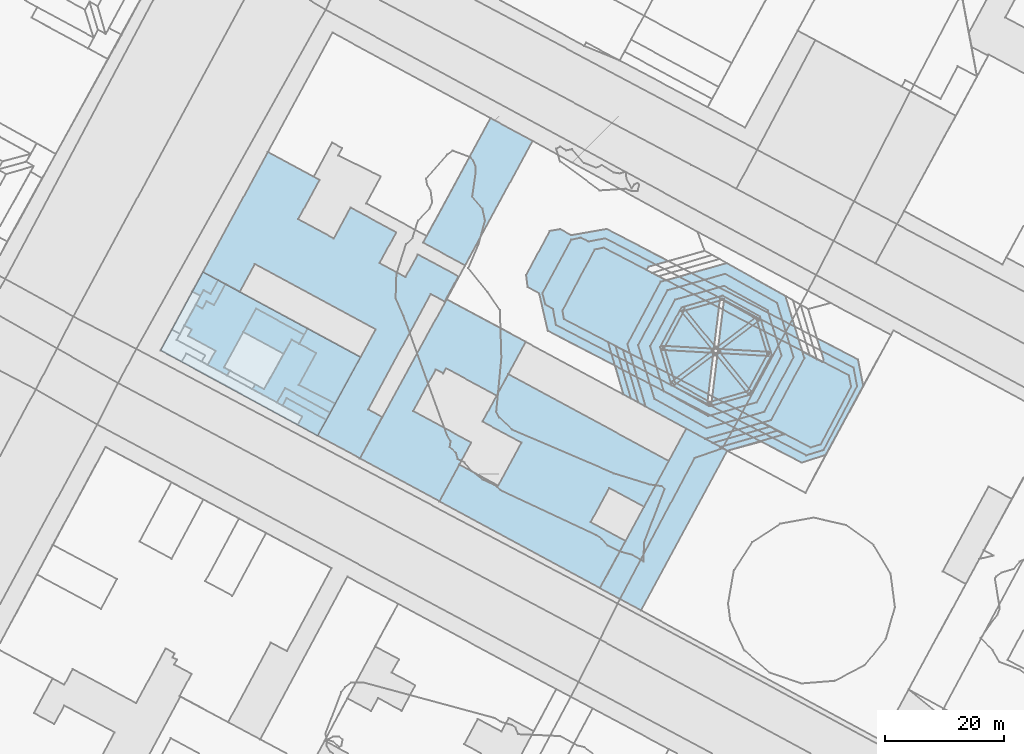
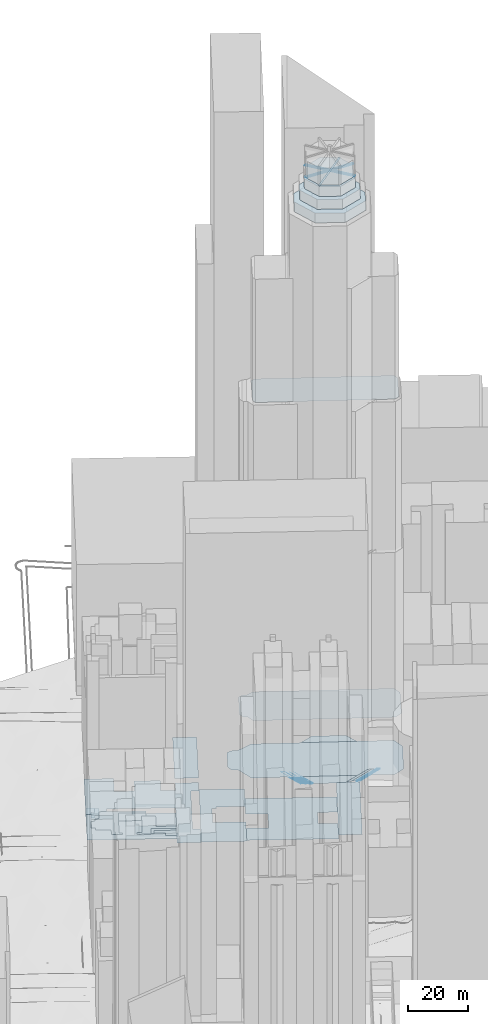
# Not in any storey, part 7 of 76: 31 footings.
"""IFC2X3 model written with IfcOpenShell, lengths in metres."""

from ifc_helpers import new_model, si_unit, frame, origin_with_axes, place, context, subcontext, project, faceted_brep, element, save


model = new_model("IFC2X3")

# Units and contexts
model_context = context("Model", 3, precision=1e-05, world=origin_with_axes())
body_context = subcontext(model_context, "Body", "Model", "MODEL_VIEW")
ifc_project = project(units=[si_unit("AREAUNIT", "SQUARE_METRE"), si_unit("LENGTHUNIT", "METRE")], contexts=[model_context])

# Footings
footing_1_placement = place(None, frame((159.9721915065, 264.969762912, 19.7613864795), z_axis=(0.0, 0.0, 1.0), x_axis=(1.0, 0.0, 0.0)))
element("IfcFooting", 1, at=footing_1_placement, Name="Sol 0", PredefinedType="STRIP_FOOTING", context=body_context, shape_type="Brep", body=[
    faceted_brep([(26.8862979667, -14.5533802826, 0.0), (0.0, 0.0, 0.0), (3.3387795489, 6.1561492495, 0.0), (25.3312162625, -3.502510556, 0.0), (31.1586807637, -6.6544117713, 0.0), (38.4143590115, 6.7526611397, 0.0), (34.2660149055, -0.9228247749, 0.0), (28.4385534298, 2.2290739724, 0.0), (7.2227399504, 13.3400447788, 0.0), (11.5365531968, 21.3060973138, 0.0), (9.8628457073, 2.6237495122, 0.0), (13.7552421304, 9.807746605, 0.0)], [[[0, 1, 2]], [[3, 4, 0]], [[5, 6, 7]], [[8, 9, 5]], [[0, 2, 10]], [[8, 5, 7]], [[0, 10, 11]], [[11, 8, 7]], [[3, 0, 11]], [[11, 7, 3]]]),
])
footing_2_placement = place(None, frame((133.701994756, 280.9958944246, 22.2284312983), z_axis=(0.0, 0.0, 1.0), x_axis=(1.0, 0.0, 0.0)))
element("IfcFooting", 2, at=footing_2_placement, Name="Sol 0", PredefinedType="STRIP_FOOTING", context=body_context, shape_type="Brep", body=[
    faceted_brep([(3.3046733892, -1.8045757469, 0.0), (0.0, 0.0, 0.0), (0.686095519, 1.2514244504, 0.0), (5.8745466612, -5.0276748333, 0.0), (2.5274119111, -3.2013890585, 0.0), (7.3210219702, -2.3796322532, 0.0)], [[[0, 1, 2]], [[3, 4, 0]], [[0, 2, 5]], [[5, 3, 0]]]),
])
footing_3_placement = place(None, frame((132.7675039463, 281.5068423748, 22.0591971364), z_axis=(0.0, 0.0, 1.0), x_axis=(1.0, 0.0, 0.0)))
element("IfcFooting", 3, at=footing_3_placement, Name="Sol 0", PredefinedType="STRIP_FOOTING", context=body_context, shape_type="Brep", body=[
    faceted_brep([(0.9344908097, -0.5109479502, 0.0), (0.0, 0.0, 0.0), (1.3392038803, 2.43585198, 0.0), (8.9001799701, -1.7062499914, 0.0), (8.2555127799, -2.8905802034, 0.0), (1.6205863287, 0.7404765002, 0.0)], [[[0, 1, 2]], [[3, 4, 5]], [[5, 0, 2]], [[2, 3, 5]]]),
])
footing_4_placement = place(None, frame((136.4219742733, 284.4691979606, 20.8510870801), z_axis=(0.0, 0.0, 1.0), x_axis=(1.0, 0.0, 0.0)))
element("IfcFooting", 4, at=footing_4_placement, Name="Sol 0", PredefinedType="STRIP_FOOTING", context=body_context, shape_type="Brep", body=[
    faceted_brep([(6.088815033, -3.1266972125, 0.0), (0.0, 0.0, 0.0), (2.9178819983, 5.3296808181, 0.0), (1.4688163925, 9.4428815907, 0.0), (10.3290123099, 4.6386442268, 0.0), (0.063512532, 6.8841359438, 0.0)], [[[0, 1, 2]], [[3, 4, 0]], [[2, 5, 3]], [[3, 0, 2]]]),
])
footing_5_placement = place(None, frame((128.6389686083, 283.7459380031, 21.7688219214), z_axis=(0.0, 0.0, 1.0), x_axis=(1.0, 0.0, 0.0)))
element("IfcFooting", 5, at=footing_5_placement, Name="Sol 0", PredefinedType="STRIP_FOOTING", context=body_context, shape_type="Brep", body=[
    faceted_brep([(4.128535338, -2.2390956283, 0.0), (0.0, 0.0, 0.0), (0.4547989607, 0.8157486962, 0.0), (13.8718206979, -2.403437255, 0.0), (13.0287153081, -3.9453456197, 0.0), (5.4677392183, 0.1967563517, 0.0), (6.5976755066, 8.2923269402, 0.0), (10.7008876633, 6.0529407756, 0.0), (7.7830056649, 0.7232599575, 0.0), (1.9668380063, 0.0006475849, 0.0)], [[[0, 1, 2]], [[3, 4, 5]], [[6, 7, 8]], [[0, 2, 9]], [[8, 3, 5]], [[9, 6, 8]], [[5, 0, 9]], [[9, 8, 5]]]),
])
footing_6_placement = place(None, frame((127.1263243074, 293.3318134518, 21.914507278), z_axis=(0.0, 0.0, 1.0), x_axis=(1.0, 0.0, 0.0)))
element("IfcFooting", 6, at=footing_6_placement, Name="Sol 0", PredefinedType="STRIP_FOOTING", context=body_context, shape_type="Brep", body=[
    faceted_brep([(6.7281427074, -3.6632865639, 0.0), (0.0, 0.0, 0.0), (2.1408822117, 3.9106630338, 0.0), (10.1940852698, -0.4588713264, 0.0), (9.3591624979, -1.9784795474, 0.0), (8.1103198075, -1.2935485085, 0.0)], [[[0, 1, 2]], [[3, 4, 5]], [[5, 0, 2]], [[2, 3, 5]]]),
])
footing_7_placement = place(None, frame((113.2505831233, 290.2618220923, 20.8510870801), z_axis=(0.0, 0.0, 1.0), x_axis=(1.0, 0.0, 0.0)))
element("IfcFooting", 7, at=footing_7_placement, Name="Sol 0", PredefinedType="STRIP_FOOTING", context=body_context, shape_type="Brep", body=[
    faceted_brep([(26.3259582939, -14.293602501, 0.0), (0.0, 0.0, 0.0), (7.1070834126, 13.1277116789, 0.0), (33.5004034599, -1.1539799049, 0.0)], [[[0, 1, 2]], [[2, 3, 0]]]),
])
footing_8_placement = place(None, frame((117.2543175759, 294.4050643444, 21.8182038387), z_axis=(0.0, 0.0, 1.0), x_axis=(1.0, 0.0, 0.0)))
element("IfcFooting", 8, at=footing_8_placement, Name="Sol 0", PredefinedType="STRIP_FOOTING", context=body_context, shape_type="Brep", body=[
    faceted_brep([(1.2063814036, -0.6632227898, 0.0), (0.0, 0.0, 0.0), (1.8928382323, 3.4636882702, 0.0), (5.206899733, -4.2360816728, 0.0), (0.6111927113, -1.7470558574, 0.0), (7.1880803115, -8.3764098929, 0.0), (3.9175610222, -6.6047386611, 0.0), (6.6234717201, -7.0062899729, 0.0), (7.6344393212, -7.5607595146, 0.0), (20.6364730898, -0.4929847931, 0.0), (20.0660920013, -1.532122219, 0.0), (12.0128889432, 2.8374121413, 0.0), (3.0481909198, 2.8331797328, 0.0), (3.7259757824, 4.073404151, 0.0), (4.9492373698, 3.4103780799, 0.0), (6.8834997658, 6.9411625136, 0.0)], [[[0, 1, 2]], [[3, 4, 0]], [[5, 6, 3]], [[7, 8, 5]], [[9, 10, 11]], [[12, 13, 14]], [[0, 2, 12]], [[7, 5, 3]], [[15, 9, 11]], [[0, 12, 14]], [[11, 7, 3]], [[14, 15, 11]], [[3, 0, 14]], [[14, 11, 3]]]),
])
footing_9_placement = place(None, frame((120.3576665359, 303.3895337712, 19.1918452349), z_axis=(0.0, 0.0, 1.0), x_axis=(1.0, 0.0, 0.0)))
element("IfcFooting", 9, at=footing_9_placement, Name="Sol 0", PredefinedType="STRIP_FOOTING", context=body_context, shape_type="Brep", body=[
    faceted_brep([(6.1586360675, -3.3257392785, 0.0), (0.0, 0.0, 0.0), (10.8837545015, 20.0994069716, 0.0), (26.294638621, -31.2137773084, 0.0), (19.2188748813, -27.4213141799, 0.0), (28.9305528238, -9.6114631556, 0.0), (27.6853086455, -23.0374588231, 0.0), (30.029914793, -24.3091752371, 0.0), (42.7894344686, -0.7351197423, 0.0), (40.5002598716, -4.9583798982, 0.0), (38.1557868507, -3.6977675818, 0.0), (33.927701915, -0.8825259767, 0.0), (36.0020774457, 2.9385544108, 0.0), (24.7261469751, 10.7789291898, 0.0), (32.3883820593, 6.6380157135, 0.0), (29.5868752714, 1.4651129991, 0.0), (19.5314868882, 15.4148184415, 0.0), (15.9697266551, 8.8342025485, 0.0), (8.6958773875, 1.3444821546, 0.0), (21.9330768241, 5.6061274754, 0.0)], [[[0, 1, 2]], [[3, 4, 5]], [[6, 7, 3]], [[8, 9, 10]], [[11, 12, 8]], [[13, 14, 15]], [[2, 16, 17]], [[18, 0, 2]], [[6, 3, 5]], [[11, 8, 10]], [[19, 13, 15]], [[18, 2, 17]], [[10, 6, 5]], [[15, 11, 10]], [[18, 17, 19]], [[10, 5, 18]], [[19, 15, 10]], [[10, 18, 19]]]),
])
footing_10_placement = place(None, frame((146.6523051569, 272.1757564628, 19.3891240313), z_axis=(0.0, 0.0, 1.0), x_axis=(1.0, 0.0, 0.0)))
element("IfcFooting", 10, at=footing_10_placement, Name="Sol 0", PredefinedType="STRIP_FOOTING", context=body_context, shape_type="Brep", body=[
    faceted_brep([(18.6586321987, 2.6371463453, 0.0), (13.3198863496, -7.2059935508, 0.0), (0.0, 0.0, 0.0), (14.4368310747, 15.0781131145, 0.0), (13.982422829, 14.2290601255, 0.0), (12.7252657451, 14.9027882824, 0.0), (27.7984552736, 19.5299999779, 0.0), (22.9062179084, 10.4914052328, 0.0), (8.931952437, 7.9086886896, 0.0), (14.5389731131, 26.6256464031, 0.0)], [[[0, 1, 2]], [[3, 4, 5]], [[6, 7, 3]], [[8, 0, 2]], [[6, 3, 5]], [[8, 2, 9]], [[9, 6, 5]], [[5, 8, 9]]]),
])
footing_11_placement = place(None, frame((190.7505875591, 290.2965312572, 21.0925550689), z_axis=(0.0, 0.0, 1.0), x_axis=(1.0, 0.0, 0.0)))
element("IfcFooting", 11, at=footing_11_placement, Name="Sol 0", PredefinedType="STRIP_FOOTING", context=body_context, shape_type="Brep", body=[
    faceted_brep([(2.5927444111, -8.8183526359, 0.0), (0.0, 0.0, 0.0), (1.2400209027, -0.6517176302, 0.0), (3.7905656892, -9.4705605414, 0.0)], [[[0, 1, 2]], [[2, 3, 0]]]),
])
footing_12_placement = place(None, frame((189.5021266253, 290.948150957, 21.1265616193), z_axis=(0.0, 0.0, 1.0), x_axis=(1.0, 0.0, 0.0)))
element("IfcFooting", 12, at=footing_12_placement, Name="Sol 0", PredefinedType="STRIP_FOOTING", context=body_context, shape_type="Brep", body=[
    faceted_brep([(2.5839152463, -8.7851489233, 0.0), (0.0, 0.0, 0.0), (1.2484609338, -0.6516196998, 0.0), (3.8412053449, -9.4699723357, 0.0)], [[[0, 1, 2]], [[2, 3, 0]]]),
])
footing_13_placement = place(None, frame((188.2449675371, 291.6218742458, 21.1651408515), z_axis=(0.0, 0.0, 1.0), x_axis=(1.0, 0.0, 0.0)))
element("IfcFooting", 13, at=footing_13_placement, Name="Sol 0", PredefinedType="STRIP_FOOTING", context=body_context, shape_type="Brep", body=[
    faceted_brep([(2.5839135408, -8.7851493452, 0.0), (0.0, 0.0, 0.0), (1.2571590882, -0.6737232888, 0.0), (3.8410743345, -9.4588722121, 0.0)], [[[0, 1, 2]], [[2, 3, 0]]]),
])
footing_14_placement = place(None, frame((204.4971683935, 275.4350208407, 21.6849039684), z_axis=(0.0, 0.0, 1.0), x_axis=(1.0, 0.0, 0.0)))
element("IfcFooting", 14, at=footing_14_placement, Name="Sol 0", PredefinedType="STRIP_FOOTING", context=body_context, shape_type="Brep", body=[
    faceted_brep([(1.2741729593, -0.6846250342, 0.0), (0.0, 0.0, 0.0), (9.490542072, 2.6971955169, 0.0), (10.7814669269, 2.0238691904, 0.0)], [[[0, 1, 2]], [[2, 3, 0]]]),
])
footing_15_placement = place(None, frame((205.7713413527, 274.7503958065, 21.7965636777), z_axis=(0.0, 0.0, 1.0), x_axis=(1.0, 0.0, 0.0)))
element("IfcFooting", 15, at=footing_15_placement, Name="Sol 0", PredefinedType="STRIP_FOOTING", context=body_context, shape_type="Brep", body=[
    faceted_brep([(1.2572926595, -0.6848211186, 0.0), (0.0, 0.0, 0.0), (9.5072939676, 2.7084942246, 0.0), (10.7897787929, 2.0350699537, 0.0)], [[[0, 1, 2]], [[2, 3, 0]]]),
])
footing_16_placement = place(None, frame((207.0286340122, 274.0655746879, 21.8143831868), z_axis=(0.0, 0.0, 1.0), x_axis=(1.0, 0.0, 0.0)))
element("IfcFooting", 16, at=footing_16_placement, Name="Sol 0", PredefinedType="STRIP_FOOTING", context=body_context, shape_type="Brep", body=[
    faceted_brep([(1.1722447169, -0.630298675, 0.0), (0.0, 0.0, 0.0), (9.5324861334, 2.7198910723, 0.0), (10.6620135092, 2.1335061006, 0.0)], [[[0, 1, 2]], [[2, 3, 0]]]),
])
footing_17_placement = place(None, frame((193.2816809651, 291.1364254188, 247.2874462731), z_axis=(0.0, 0.0, 1.0), x_axis=(1.0, 0.0, 0.0)))
element("IfcFooting", 17, at=footing_17_placement, Name="Sol 0", PredefinedType="STRIP_FOOTING", context=body_context, shape_type="Brep", body=[
    faceted_brep([(2.7471243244, -9.0274996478, 0.0), (0.0, 0.0, 0.0), (4.9071471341, 9.2053187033, 0.0), (21.1319324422, -11.1562809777, 0.0), (11.4476540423, -13.8890368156, 0.0), (23.2920400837, 7.0654426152, 0.0), (26.0391907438, -1.9620488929, 0.0), (14.5913971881, 11.9380665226, 0.0)], [[[0, 1, 2]], [[3, 4, 0]], [[5, 6, 3]], [[2, 7, 5]], [[3, 0, 2]], [[2, 5, 3]]]),
])
footing_18_placement = place(None, frame((200.4835497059, 296.8268073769, 260.0739856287), z_axis=(0.0, 0.0, 1.0), x_axis=(1.0, 0.0, 0.0)))
element("IfcFooting", 18, at=footing_18_placement, Name="Sol 0", PredefinedType="STRIP_FOOTING", context=body_context, shape_type="Brep", body=[
    faceted_brep([(11.1849786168, -13.8032627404, 0.0), (0.0, 0.0, 0.0), (0.5434525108, 0.450409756, 0.0), (11.7370008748, -13.3638547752, 0.0)], [[[0, 1, 2]], [[2, 3, 0]]]),
])
footing_19_placement = place(None, frame((198.9155746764, 285.0290795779, 259.6639688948), z_axis=(0.0, 0.0, 1.0), x_axis=(1.0, 0.0, 0.0)))
element("IfcFooting", 19, at=footing_19_placement, Name="Sol 0", PredefinedType="STRIP_FOOTING", context=body_context, shape_type="Brep", body=[
    faceted_brep([(0.4284669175, -0.5501306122, 0.0), (0.0, 0.0, 0.0), (14.1487960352, 10.8004996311, 0.0), (14.5773925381, 10.2392690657, 0.0)], [[[0, 1, 2]], [[2, 3, 0]]]),
])
footing_20_placement = place(None, frame((197.6677213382, 290.7100275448, 259.7077898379), z_axis=(0.0, 0.0, 1.0), x_axis=(1.0, 0.0, 0.0)))
element("IfcFooting", 20, at=footing_20_placement, Name="Sol 0", PredefinedType="STRIP_FOOTING", context=body_context, shape_type="Brep", body=[
    faceted_brep([(1.7900951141, -5.8522788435, 0.0), (0.0, 0.0, 0.0), (3.3045880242, 6.1890768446, 0.0), (13.9625274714, -7.2983490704, 0.0), (7.5763793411, -9.0934656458, 0.0), (15.47687195, 4.7541101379, 0.0), (17.2671074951, -1.1092659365, 0.0), (9.6905946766, 7.9952907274, 0.0)], [[[0, 1, 2]], [[3, 4, 0]], [[5, 6, 3]], [[2, 7, 5]], [[3, 0, 2]], [[2, 5, 3]]]),
])
footing_21_placement = place(None, frame((197.3599497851, 290.3178698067, 260.1111568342), z_axis=(0.0, 0.0, 1.0), x_axis=(1.0, 0.0, 0.0)))
element("IfcFooting", 21, at=footing_21_placement, Name="Sol 0", PredefinedType="STRIP_FOOTING", context=body_context, shape_type="Brep", body=[
    faceted_brep([(17.7976823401, -1.0031756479, 0.0), (0.0, 0.0, 0.0), (0.0425095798, 0.6999365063, 0.0), (17.8317499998, -0.3033371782, 0.0)], [[[0, 1, 2]], [[2, 3, 0]]]),
])
footing_22_placement = place(None, frame((196.9493964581, 290.7793907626, 255.631798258), z_axis=(0.0, 0.0, 1.0), x_axis=(1.0, 0.0, 0.0)))
element("IfcFooting", 22, at=footing_22_placement, Name="Sol 0", PredefinedType="STRIP_FOOTING", context=body_context, shape_type="Brep", body=[
    faceted_brep([(1.9480859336, -6.3722479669, 0.0), (0.0, 0.0, 0.0), (3.5688676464, 6.6917512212, 0.0), (15.134770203, -7.9286484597, 0.0), (8.2102521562, -9.8854576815, 0.0), (16.7555291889, 5.1353539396, 0.0), (18.7037575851, -1.2479906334, 0.0), (10.4935002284, 8.6374556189, 0.0)], [[[0, 1, 2]], [[3, 4, 0]], [[5, 6, 3]], [[2, 7, 5]], [[3, 0, 2]], [[2, 5, 3]]]),
])
footing_23_placement = place(None, frame((195.292913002, 290.9488680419, 251.4761187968), z_axis=(0.0, 0.0, 1.0), x_axis=(1.0, 0.0, 0.0)))
element("IfcFooting", 23, at=footing_23_placement, Name="Sol 0", PredefinedType="STRIP_FOOTING", context=body_context, shape_type="Brep", body=[
    faceted_brep([(2.308204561, -7.5782069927, 0.0), (0.0, 0.0, 0.0), (4.1720986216, 7.8089905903, 0.0), (17.8446396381, -9.3959413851, 0.0), (9.6747051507, -11.6891998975, 0.0), (19.7083730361, 6.0023613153, 0.0), (22.0165962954, -1.5758398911, 0.0), (12.3418838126, 10.1133441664, 0.0)], [[[0, 1, 2]], [[3, 4, 0]], [[5, 6, 3]], [[2, 7, 5]], [[3, 0, 2]], [[2, 5, 3]]]),
])
footing_24_placement = place(None, frame((191.4815843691, 291.3153359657, 21.0925550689), z_axis=(0.0, 0.0, 1.0), x_axis=(1.0, 0.0, 0.0)))
element("IfcFooting", 24, at=footing_24_placement, Name="Sol 0", PredefinedType="STRIP_FOOTING", context=body_context, shape_type="Brep", body=[
    faceted_brep([(3.0595688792, -10.4893652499, 0.0), (0.0, 0.0, 0.0), (5.568169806, 10.4342520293, 0.0), (24.0711095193, -12.7430327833, 0.0), (13.0155840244, -15.880315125, 0.0), (26.4887462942, 8.0130012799, 0.0), (29.6392561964, -2.3087624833, 0.0), (16.6070361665, 13.549126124, 0.0)], [[[0, 1, 2]], [[3, 4, 0]], [[5, 6, 3]], [[2, 7, 5]], [[3, 0, 2]], [[2, 5, 3]]]),
])
footing_25_placement = place(None, frame((174.515196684, 302.8642732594, 21.3701181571), z_axis=(0.0, 0.0, 1.0), x_axis=(1.0, 0.0, 0.0)))
element("IfcFooting", 25, at=footing_25_placement, Name="Sol 0", PredefinedType="STRIP_FOOTING", context=body_context, shape_type="Brep", body=[
    faceted_brep([(0.2596837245, -2.0064896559, 0.0), (0.0, 0.0, 0.0), (3.9490017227, 7.3956015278, 0.0), (46.1429906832, -31.4157509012, 0.0), (3.6457642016, -9.3612290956, 0.0), (2.2055322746, -3.1051971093, 0.0), (56.4684852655, -18.4947444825, 0.0), (50.1375301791, -30.1147343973, 0.0), (13.4416773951, 7.7280088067, 0.0), (55.6076025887, -14.152673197, 0.0), (5.6591417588, 7.693039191, 0.0), (7.5533148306, 6.6825504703, 0.0)], [[[0, 1, 2]], [[3, 4, 5]], [[6, 7, 3]], [[8, 9, 6]], [[2, 10, 11]], [[5, 0, 2]], [[6, 3, 5]], [[11, 8, 6]], [[5, 2, 11]], [[11, 6, 5]]]),
])
footing_26_placement = place(None, frame((177.2431205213, 299.8428648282, 43.5388270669), z_axis=(0.0, 0.0, 1.0), x_axis=(1.0, 0.0, 0.0)))
element("IfcFooting", 26, at=footing_26_placement, Name="Sol 0", PredefinedType="STRIP_FOOTING", context=body_context, shape_type="Brep", body=[
    faceted_brep([(0.5291270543, -1.9478459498, 0.0), (0.0, 0.0, 0.0), (4.8257265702, 8.9490093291, 0.0), (44.1689292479, -27.1643259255, 0.0), (2.2654927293, -5.358257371, 0.0), (1.7866712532, -2.6548732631, 0.0), (52.7120119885, -15.5852207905, 0.0), (47.0793212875, -26.2756005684, 0.0), (10.4871850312, 9.1813647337, 0.0), (52.1358092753, -12.4943931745, 0.0), (6.3919957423, 9.2780819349, 0.0), (7.7499180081, 8.6499384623, 0.0)], [[[0, 1, 2]], [[3, 4, 5]], [[6, 7, 3]], [[8, 9, 6]], [[2, 10, 11]], [[5, 0, 2]], [[6, 3, 5]], [[11, 8, 6]], [[5, 2, 11]], [[11, 6, 5]]]),
])
footing_27_placement = place(None, frame((180.6026452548, 296.9509249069, 171.5778831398), z_axis=(0.0, 0.0, 1.0), x_axis=(1.0, 0.0, 0.0)))
element("IfcFooting", 27, at=footing_27_placement, Name="Sol 0", PredefinedType="STRIP_FOOTING", context=body_context, shape_type="Brep", body=[
    faceted_brep([(0.2620602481, -1.4846557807, 0.0), (0.0, 0.0, 0.0), (5.3850764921, 10.2100697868, 0.0), (43.2446066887, -22.4454958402, 0.0), (41.5201615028, -22.9651549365, 0.0), (47.9978790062, -10.8993697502, 0.0), (48.3487420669, -12.7604679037, 0.0), (6.8926514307, 10.5051540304, 0.0)], [[[0, 1, 2]], [[3, 4, 0]], [[5, 6, 3]], [[2, 7, 5]], [[3, 0, 2]], [[2, 5, 3]]]),
])
footing_28_placement = place(None, frame((186.8584894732, 250.4163826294, 21.3845065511), z_axis=(0.0, 0.0, 1.0), x_axis=(1.0, 0.0, 0.0)))
element("IfcFooting", 28, at=footing_28_placement, Name="Sol 0", PredefinedType="STRIP_FOOTING", context=body_context, shape_type="Brep", body=[
    faceted_brep([(6.8724714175, -3.7281693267, 0.0), (0.0, 0.0, 0.0), (14.4700635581, 26.7359484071, 0.0), (21.3423892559, 23.0188933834, 0.0)], [[[0, 1, 2]], [[2, 3, 0]]]),
])
footing_29_placement = place(None, frame((157.2485817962, 308.2924157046, 19.5637782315), z_axis=(0.0, 0.0, 1.0), x_axis=(1.0, 0.0, 0.0)))
element("IfcFooting", 29, at=footing_29_placement, Name="Sol 0", PredefinedType="STRIP_FOOTING", context=body_context, shape_type="Brep", body=[
    faceted_brep([(7.0337999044, -3.8151381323, 0.0), (0.0, 0.0, 0.0), (11.288572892, 20.8480210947, 0.0), (18.3222304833, 17.0439945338, 0.0)], [[[0, 1, 2]], [[2, 3, 0]]]),
])
footing_30_placement = place(None, frame((118.5811882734, 300.0826284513, 23.3439021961), z_axis=(0.0, 0.0, 1.0), x_axis=(1.0, 0.0, 0.0)))
element("IfcFooting", 30, at=footing_30_placement, Name="Sol 0", PredefinedType="STRIP_FOOTING", context=body_context, shape_type="Brep", body=[
    faceted_brep([(1.3506384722, -0.7281601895, 0.0), (0.0, 0.0, 0.0), (1.7764782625, 3.3069053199, 0.0), (4.3418081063, 1.9267222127, 0.0), (3.0602671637, -0.3863330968, 0.0), (1.8710248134, 0.2548837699, 0.0)], [[[0, 1, 2]], [[3, 4, 5]], [[5, 0, 2]], [[2, 3, 5]]]),
])
footing_31_placement = place(None, frame((119.1471558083, 297.8687526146, 23.2334152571), z_axis=(0.0, 0.0, 1.0), x_axis=(1.0, 0.0, 0.0)))
element("IfcFooting", 31, at=footing_31_placement, Name="Sol 0", PredefinedType="STRIP_FOOTING", context=body_context, shape_type="Brep", body=[
    faceted_brep([(1.1553526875, -0.6305085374, 0.0), (0.0, 0.0, 0.0), (1.3050572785, 2.4687596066, 0.0), (4.9906615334, 3.4774742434, 0.0), (3.0563991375, -0.0533101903, 0.0), (1.83313755, 0.6097158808, 0.0), (2.4942996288, 1.8275427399, 0.0), (3.7758405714, 4.1405980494, 0.0)], [[[0, 1, 2]], [[3, 4, 5]], [[6, 7, 3]], [[0, 2, 6]], [[6, 3, 5]], [[5, 0, 6]]]),
])

save(model, "model.ifc")
